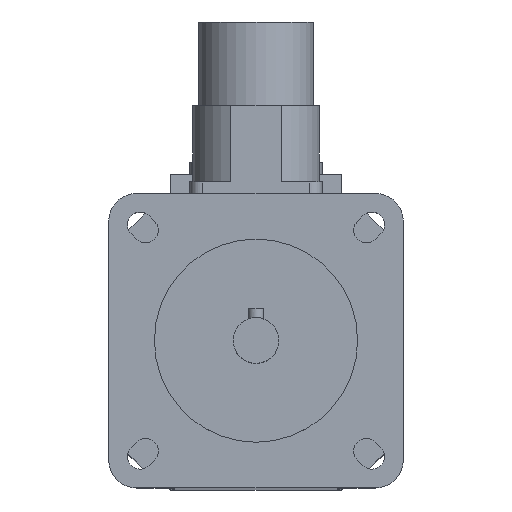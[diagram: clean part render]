
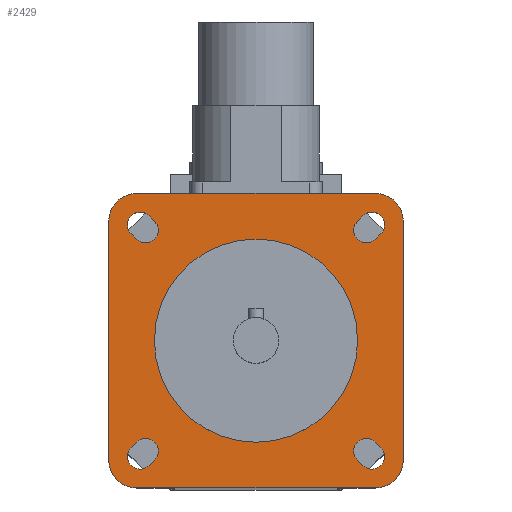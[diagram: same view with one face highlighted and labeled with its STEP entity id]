
A CAD part, top view. The second image highlights one B-rep face of the part: STEP entity #2429.
In plain terms, the highlighted planar face has unit normal (0, 0, 1).
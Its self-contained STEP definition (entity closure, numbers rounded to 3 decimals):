
#28=FACE_BOUND('',#427,.T.);
#29=FACE_BOUND('',#428,.T.);
#30=FACE_BOUND('',#429,.T.);
#31=FACE_BOUND('',#430,.T.);
#32=FACE_BOUND('',#431,.T.);
#47=CIRCLE('',#2525,20.);
#84=CIRCLE('',#2589,2.5);
#88=CIRCLE('',#2596,2.5);
#89=CIRCLE('',#2599,2.5);
#90=CIRCLE('',#2602,2.5);
#100=CIRCLE('',#2617,2.5);
#101=CIRCLE('',#2620,2.5);
#102=CIRCLE('',#2623,2.5);
#103=CIRCLE('',#2626,2.5);
#104=CIRCLE('',#2628,5.5);
#105=CIRCLE('',#2630,5.5);
#106=CIRCLE('',#2632,5.5);
#107=CIRCLE('',#2634,5.5);
#282=FACE_OUTER_BOUND('',#426,.T.);
#426=EDGE_LOOP('',(#1862,#1863,#1864,#1865,#1866,#1867,#1868,#1869));
#427=EDGE_LOOP('',(#1870));
#428=EDGE_LOOP('',(#1871,#1872,#1873,#1874));
#429=EDGE_LOOP('',(#1875,#1876,#1877,#1878));
#430=EDGE_LOOP('',(#1879,#1880,#1881,#1882));
#431=EDGE_LOOP('',(#1883,#1884,#1885,#1886));
#576=LINE('',#3759,#807);
#584=LINE('',#3783,#815);
#588=LINE('',#3793,#819);
#592=LINE('',#3803,#823);
#608=LINE('',#3854,#839);
#610=LINE('',#3860,#841);
#612=LINE('',#3866,#843);
#614=LINE('',#3872,#845);
#623=LINE('',#3900,#854);
#624=LINE('',#3901,#855);
#625=LINE('',#3902,#856);
#626=LINE('',#3903,#857);
#807=VECTOR('',#2980,1.5);
#815=VECTOR('',#3002,1.5);
#819=VECTOR('',#3012,1.5);
#823=VECTOR('',#3022,1.5);
#839=VECTOR('',#3068,1.5);
#841=VECTOR('',#3076,1.5);
#843=VECTOR('',#3084,1.5);
#845=VECTOR('',#3092,1.5);
#854=VECTOR('',#3123,47.);
#855=VECTOR('',#3124,47.);
#856=VECTOR('',#3125,47.);
#857=VECTOR('',#3126,47.);
#992=VERTEX_POINT('',#3580);
#1057=VERTEX_POINT('',#3756);
#1058=VERTEX_POINT('',#3758);
#1059=VERTEX_POINT('',#3762);
#1066=VERTEX_POINT('',#3780);
#1067=VERTEX_POINT('',#3782);
#1068=VERTEX_POINT('',#3786);
#1069=VERTEX_POINT('',#3790);
#1070=VERTEX_POINT('',#3792);
#1071=VERTEX_POINT('',#3796);
#1072=VERTEX_POINT('',#3800);
#1073=VERTEX_POINT('',#3802);
#1074=VERTEX_POINT('',#3806);
#1093=VERTEX_POINT('',#3852);
#1094=VERTEX_POINT('',#3858);
#1095=VERTEX_POINT('',#3864);
#1096=VERTEX_POINT('',#3870);
#1097=VERTEX_POINT('',#3876);
#1098=VERTEX_POINT('',#3878);
#1099=VERTEX_POINT('',#3882);
#1100=VERTEX_POINT('',#3884);
#1101=VERTEX_POINT('',#3888);
#1102=VERTEX_POINT('',#3890);
#1103=VERTEX_POINT('',#3894);
#1104=VERTEX_POINT('',#3896);
#1234=EDGE_CURVE('',#992,#992,#47,.T.);
#1320=EDGE_CURVE('',#1058,#1057,#576,.T.);
#1323=EDGE_CURVE('',#1057,#1059,#84,.T.);
#1332=EDGE_CURVE('',#1067,#1066,#584,.T.);
#1335=EDGE_CURVE('',#1066,#1068,#88,.T.);
#1337=EDGE_CURVE('',#1070,#1069,#588,.T.);
#1340=EDGE_CURVE('',#1069,#1071,#89,.T.);
#1342=EDGE_CURVE('',#1073,#1072,#592,.T.);
#1345=EDGE_CURVE('',#1072,#1074,#90,.T.);
#1368=EDGE_CURVE('',#1071,#1093,#608,.T.);
#1369=EDGE_CURVE('',#1093,#1070,#100,.T.);
#1371=EDGE_CURVE('',#1068,#1094,#610,.T.);
#1372=EDGE_CURVE('',#1094,#1067,#101,.T.);
#1374=EDGE_CURVE('',#1074,#1095,#612,.T.);
#1375=EDGE_CURVE('',#1095,#1073,#102,.T.);
#1377=EDGE_CURVE('',#1059,#1096,#614,.T.);
#1378=EDGE_CURVE('',#1096,#1058,#103,.T.);
#1380=EDGE_CURVE('',#1098,#1097,#104,.T.);
#1383=EDGE_CURVE('',#1100,#1099,#105,.T.);
#1386=EDGE_CURVE('',#1102,#1101,#106,.T.);
#1389=EDGE_CURVE('',#1104,#1103,#107,.T.);
#1391=EDGE_CURVE('',#1097,#1104,#623,.T.);
#1392=EDGE_CURVE('',#1103,#1102,#624,.T.);
#1393=EDGE_CURVE('',#1101,#1100,#625,.T.);
#1394=EDGE_CURVE('',#1099,#1098,#626,.T.);
#1862=ORIENTED_EDGE('',*,*,#1391,.T.);
#1863=ORIENTED_EDGE('',*,*,#1389,.T.);
#1864=ORIENTED_EDGE('',*,*,#1392,.T.);
#1865=ORIENTED_EDGE('',*,*,#1386,.T.);
#1866=ORIENTED_EDGE('',*,*,#1393,.T.);
#1867=ORIENTED_EDGE('',*,*,#1383,.T.);
#1868=ORIENTED_EDGE('',*,*,#1394,.T.);
#1869=ORIENTED_EDGE('',*,*,#1380,.T.);
#1870=ORIENTED_EDGE('',*,*,#1234,.T.);
#1871=ORIENTED_EDGE('',*,*,#1368,.T.);
#1872=ORIENTED_EDGE('',*,*,#1369,.T.);
#1873=ORIENTED_EDGE('',*,*,#1337,.T.);
#1874=ORIENTED_EDGE('',*,*,#1340,.T.);
#1875=ORIENTED_EDGE('',*,*,#1371,.T.);
#1876=ORIENTED_EDGE('',*,*,#1372,.T.);
#1877=ORIENTED_EDGE('',*,*,#1332,.T.);
#1878=ORIENTED_EDGE('',*,*,#1335,.T.);
#1879=ORIENTED_EDGE('',*,*,#1374,.T.);
#1880=ORIENTED_EDGE('',*,*,#1375,.T.);
#1881=ORIENTED_EDGE('',*,*,#1342,.T.);
#1882=ORIENTED_EDGE('',*,*,#1345,.T.);
#1883=ORIENTED_EDGE('',*,*,#1377,.T.);
#1884=ORIENTED_EDGE('',*,*,#1378,.T.);
#1885=ORIENTED_EDGE('',*,*,#1320,.T.);
#1886=ORIENTED_EDGE('',*,*,#1323,.T.);
#2328=PLANE('',#2635);
#2429=ADVANCED_FACE('',(#282,#28,#29,#30,#31,#32),#2328,.T.);
#2525=AXIS2_PLACEMENT_3D('',#3581,#2805,#2806);
#2589=AXIS2_PLACEMENT_3D('',#3764,#2985,#2986);
#2596=AXIS2_PLACEMENT_3D('',#3788,#3007,#3008);
#2599=AXIS2_PLACEMENT_3D('',#3798,#3017,#3018);
#2602=AXIS2_PLACEMENT_3D('',#3808,#3027,#3028);
#2617=AXIS2_PLACEMENT_3D('',#3856,#3071,#3072);
#2620=AXIS2_PLACEMENT_3D('',#3862,#3079,#3080);
#2623=AXIS2_PLACEMENT_3D('',#3868,#3087,#3088);
#2626=AXIS2_PLACEMENT_3D('',#3874,#3095,#3096);
#2628=AXIS2_PLACEMENT_3D('',#3879,#3100,#3101);
#2630=AXIS2_PLACEMENT_3D('',#3885,#3106,#3107);
#2632=AXIS2_PLACEMENT_3D('',#3891,#3112,#3113);
#2634=AXIS2_PLACEMENT_3D('',#3897,#3118,#3119);
#2635=AXIS2_PLACEMENT_3D('',#3899,#3121,#3122);
#2805=DIRECTION('center_axis',(0.,0.,-1.));
#2806=DIRECTION('ref_axis',(-1.,0.,0.));
#2980=DIRECTION('',(-0.707,-0.707,0.));
#2985=DIRECTION('center_axis',(0.,0.,-1.));
#2986=DIRECTION('ref_axis',(0.707,-0.707,0.));
#3002=DIRECTION('',(-0.707,0.707,0.));
#3007=DIRECTION('center_axis',(0.,0.,-1.));
#3008=DIRECTION('ref_axis',(-0.707,-0.707,0.));
#3012=DIRECTION('',(-0.707,-0.707,0.));
#3017=DIRECTION('center_axis',(0.,0.,-1.));
#3018=DIRECTION('ref_axis',(0.707,-0.707,0.));
#3022=DIRECTION('',(-0.707,0.707,0.));
#3027=DIRECTION('center_axis',(0.,0.,-1.));
#3028=DIRECTION('ref_axis',(-0.707,-0.707,0.));
#3068=DIRECTION('',(0.707,0.707,0.));
#3071=DIRECTION('center_axis',(0.,0.,-1.));
#3072=DIRECTION('ref_axis',(-0.707,0.707,0.));
#3076=DIRECTION('',(0.707,-0.707,0.));
#3079=DIRECTION('center_axis',(0.,0.,-1.));
#3080=DIRECTION('ref_axis',(0.707,0.707,0.));
#3084=DIRECTION('',(0.707,-0.707,0.));
#3087=DIRECTION('center_axis',(0.,0.,-1.));
#3088=DIRECTION('ref_axis',(0.707,0.707,0.));
#3092=DIRECTION('',(0.707,0.707,0.));
#3095=DIRECTION('center_axis',(0.,0.,-1.));
#3096=DIRECTION('ref_axis',(-0.707,0.707,0.));
#3100=DIRECTION('center_axis',(0.,0.,1.));
#3101=DIRECTION('ref_axis',(1.,0.,0.));
#3106=DIRECTION('center_axis',(0.,0.,1.));
#3107=DIRECTION('ref_axis',(0.,-1.,0.));
#3112=DIRECTION('center_axis',(0.,0.,1.));
#3113=DIRECTION('ref_axis',(-1.,0.,0.));
#3118=DIRECTION('center_axis',(0.,0.,1.));
#3119=DIRECTION('ref_axis',(0.,1.,0.));
#3121=DIRECTION('center_axis',(0.,0.,1.));
#3122=DIRECTION('ref_axis',(1.,0.,0.));
#3123=DIRECTION('',(-1.,0.,0.));
#3124=DIRECTION('',(0.,-1.,0.));
#3125=DIRECTION('',(1.,0.,0.));
#3126=DIRECTION('',(0.,1.,0.));
#3580=CARTESIAN_POINT('',(20.,0.,173.5));
#3581=CARTESIAN_POINT('Origin',(0.,0.,173.5));
#3756=CARTESIAN_POINT('',(-21.036,-24.572,173.5));
#3758=CARTESIAN_POINT('',(-19.976,-23.511,173.5));
#3759=CARTESIAN_POINT('',(-9.634,-13.17,173.5));
#3762=CARTESIAN_POINT('',(-24.572,-21.036,173.5));
#3764=CARTESIAN_POINT('Origin',(-22.804,-22.804,173.5));
#3780=CARTESIAN_POINT('',(-24.572,21.036,173.5));
#3782=CARTESIAN_POINT('',(-23.511,19.976,173.5));
#3783=CARTESIAN_POINT('',(-13.17,9.634,173.5));
#3786=CARTESIAN_POINT('',(-21.036,24.572,173.5));
#3788=CARTESIAN_POINT('Origin',(-22.804,22.804,173.5));
#3790=CARTESIAN_POINT('',(23.511,19.976,173.5));
#3792=CARTESIAN_POINT('',(24.572,21.036,173.5));
#3793=CARTESIAN_POINT('',(12.64,9.104,173.5));
#3796=CARTESIAN_POINT('',(19.976,23.511,173.5));
#3798=CARTESIAN_POINT('Origin',(21.744,21.744,173.5));
#3800=CARTESIAN_POINT('',(19.976,-23.511,173.5));
#3802=CARTESIAN_POINT('',(21.036,-24.572,173.5));
#3803=CARTESIAN_POINT('',(9.104,-12.64,173.5));
#3806=CARTESIAN_POINT('',(23.511,-19.976,173.5));
#3808=CARTESIAN_POINT('Origin',(21.744,-21.744,173.5));
#3852=CARTESIAN_POINT('',(21.036,24.572,173.5));
#3854=CARTESIAN_POINT('',(9.634,13.17,173.5));
#3856=CARTESIAN_POINT('Origin',(22.804,22.804,173.5));
#3858=CARTESIAN_POINT('',(-19.976,23.511,173.5));
#3860=CARTESIAN_POINT('',(-9.104,12.64,173.5));
#3862=CARTESIAN_POINT('Origin',(-21.744,21.744,173.5));
#3864=CARTESIAN_POINT('',(24.572,-21.036,173.5));
#3866=CARTESIAN_POINT('',(13.17,-9.634,173.5));
#3868=CARTESIAN_POINT('Origin',(22.804,-22.804,173.5));
#3870=CARTESIAN_POINT('',(-23.511,-19.976,173.5));
#3872=CARTESIAN_POINT('',(-12.64,-9.104,173.5));
#3874=CARTESIAN_POINT('Origin',(-21.744,-21.744,173.5));
#3876=CARTESIAN_POINT('',(23.5,29.,173.5));
#3878=CARTESIAN_POINT('',(29.,23.5,173.5));
#3879=CARTESIAN_POINT('Origin',(23.5,23.5,173.5));
#3882=CARTESIAN_POINT('',(29.,-23.5,173.5));
#3884=CARTESIAN_POINT('',(23.5,-29.,173.5));
#3885=CARTESIAN_POINT('Origin',(23.5,-23.5,173.5));
#3888=CARTESIAN_POINT('',(-23.5,-29.,173.5));
#3890=CARTESIAN_POINT('',(-29.,-23.5,173.5));
#3891=CARTESIAN_POINT('Origin',(-23.5,-23.5,173.5));
#3894=CARTESIAN_POINT('',(-29.,23.5,173.5));
#3896=CARTESIAN_POINT('',(-23.5,29.,173.5));
#3897=CARTESIAN_POINT('Origin',(-23.5,23.5,173.5));
#3899=CARTESIAN_POINT('Origin',(0.,0.,
173.5));
#3900=CARTESIAN_POINT('',(23.5,29.,173.5));
#3901=CARTESIAN_POINT('',(-29.,23.5,173.5));
#3902=CARTESIAN_POINT('',(-23.5,-29.,173.5));
#3903=CARTESIAN_POINT('',(29.,-23.5,173.5));
